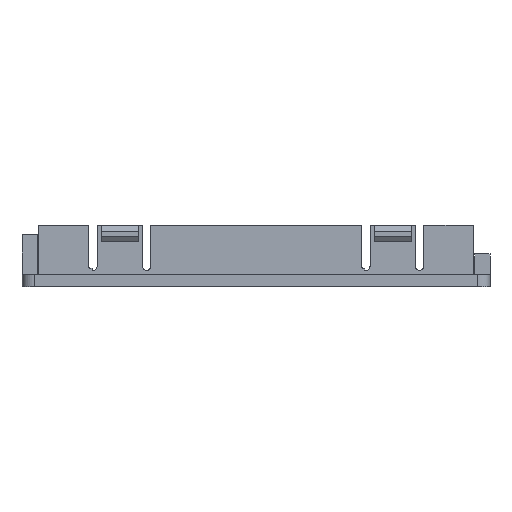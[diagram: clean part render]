
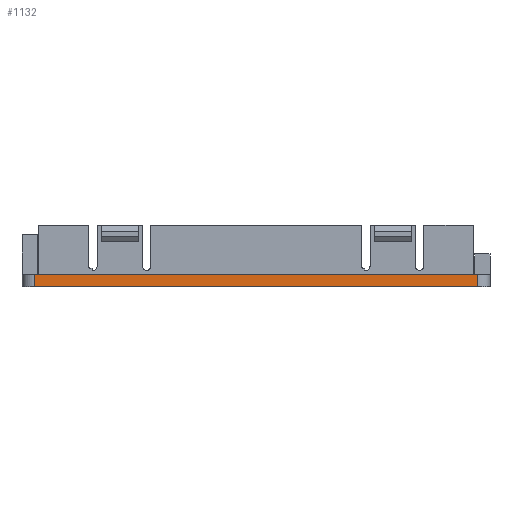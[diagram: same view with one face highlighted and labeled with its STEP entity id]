
A CAD part, front view. The second image highlights one B-rep face of the part: STEP entity #1132.
In plain terms, the highlighted planar face has unit normal (0, -1, 0).
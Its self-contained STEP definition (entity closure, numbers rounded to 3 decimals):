
#44 = PLANE('',#45);
#45 = AXIS2_PLACEMENT_3D('',#46,#47,#48);
#46 = CARTESIAN_POINT('',(0.,25.6,1.2));
#47 = DIRECTION('',(0.,0.,1.));
#48 = DIRECTION('',(-1.,-0.,0.));
#100 = PLANE('',#101);
#101 = AXIS2_PLACEMENT_3D('',#102,#103,#104);
#102 = CARTESIAN_POINT('',(0.,25.6,0.));
#103 = DIRECTION('',(0.,0.,1.));
#104 = DIRECTION('',(-1.,-0.,0.));
#128 = CYLINDRICAL_SURFACE('',#129,1.2);
#129 = AXIS2_PLACEMENT_3D('',#130,#131,#132);
#130 = CARTESIAN_POINT('',(1.2,1.2,0.));
#131 = DIRECTION('',(-0.,-0.,1.));
#132 = DIRECTION('',(-1.,-0.,0.));
#729 = CYLINDRICAL_SURFACE('',#730,1.2);
#730 = AXIS2_PLACEMENT_3D('',#731,#732,#733);
#731 = CARTESIAN_POINT('',(44.25,1.2,0.));
#732 = DIRECTION('',(-0.,-0.,1.));
#733 = DIRECTION('',(1.,-0.,-0.));
#1051 = VERTEX_POINT('',#1052);
#1052 = CARTESIAN_POINT('',(44.25,0.,0.));
#1078 = EDGE_CURVE('',#1051,#1079,#1081,.T.);
#1079 = VERTEX_POINT('',#1080);
#1080 = CARTESIAN_POINT('',(44.25,0.,1.2));
#1081 = SURFACE_CURVE('',#1082,(#1086,#1093),.PCURVE_S1.);
#1082 = LINE('',#1083,#1084);
#1083 = CARTESIAN_POINT('',(44.25,0.,0.));
#1084 = VECTOR('',#1085,1.);
#1085 = DIRECTION('',(-0.,-0.,1.));
#1086 = PCURVE('',#729,#1087);
#1087 = DEFINITIONAL_REPRESENTATION('',(#1088),#1092);
#1088 = LINE('',#1089,#1090);
#1089 = CARTESIAN_POINT('',(-1.571,0.));
#1090 = VECTOR('',#1091,1.);
#1091 = DIRECTION('',(-0.,1.));
#1092 = ( GEOMETRIC_REPRESENTATION_CONTEXT(2) 
PARAMETRIC_REPRESENTATION_CONTEXT() REPRESENTATION_CONTEXT('2D SPACE',''
  ) );
#1093 = PCURVE('',#1094,#1099);
#1094 = PLANE('',#1095);
#1095 = AXIS2_PLACEMENT_3D('',#1096,#1097,#1098);
#1096 = CARTESIAN_POINT('',(0.,0.,0.));
#1097 = DIRECTION('',(0.,-1.,0.));
#1098 = DIRECTION('',(0.,-0.,-1.));
#1099 = DEFINITIONAL_REPRESENTATION('',(#1100),#1104);
#1100 = LINE('',#1101,#1102);
#1101 = CARTESIAN_POINT('',(-0.,44.25));
#1102 = VECTOR('',#1103,1.);
#1103 = DIRECTION('',(-1.,0.));
#1104 = ( GEOMETRIC_REPRESENTATION_CONTEXT(2) 
PARAMETRIC_REPRESENTATION_CONTEXT() REPRESENTATION_CONTEXT('2D SPACE',''
  ) );
#1132 = ADVANCED_FACE('',(#1133),#1094,.T.);
#1133 = FACE_BOUND('',#1134,.F.);
#1134 = EDGE_LOOP('',(#1135,#1158,#1181,#1202));
#1135 = ORIENTED_EDGE('',*,*,#1136,.F.);
#1136 = EDGE_CURVE('',#1137,#1051,#1139,.T.);
#1137 = VERTEX_POINT('',#1138);
#1138 = CARTESIAN_POINT('',(1.2,0.,0.));
#1139 = SURFACE_CURVE('',#1140,(#1144,#1151),.PCURVE_S1.);
#1140 = LINE('',#1141,#1142);
#1141 = CARTESIAN_POINT('',(0.,0.,0.));
#1142 = VECTOR('',#1143,1.);
#1143 = DIRECTION('',(1.,0.,0.));
#1144 = PCURVE('',#1094,#1145);
#1145 = DEFINITIONAL_REPRESENTATION('',(#1146),#1150);
#1146 = LINE('',#1147,#1148);
#1147 = CARTESIAN_POINT('',(-0.,0.));
#1148 = VECTOR('',#1149,1.);
#1149 = DIRECTION('',(-0.,1.));
#1150 = ( GEOMETRIC_REPRESENTATION_CONTEXT(2) 
PARAMETRIC_REPRESENTATION_CONTEXT() REPRESENTATION_CONTEXT('2D SPACE',''
  ) );
#1151 = PCURVE('',#100,#1152);
#1152 = DEFINITIONAL_REPRESENTATION('',(#1153),#1157);
#1153 = LINE('',#1154,#1155);
#1154 = CARTESIAN_POINT('',(-0.,25.6));
#1155 = VECTOR('',#1156,1.);
#1156 = DIRECTION('',(-1.,-0.));
#1157 = ( GEOMETRIC_REPRESENTATION_CONTEXT(2) 
PARAMETRIC_REPRESENTATION_CONTEXT() REPRESENTATION_CONTEXT('2D SPACE',''
  ) );
#1158 = ORIENTED_EDGE('',*,*,#1159,.T.);
#1159 = EDGE_CURVE('',#1137,#1160,#1162,.T.);
#1160 = VERTEX_POINT('',#1161);
#1161 = CARTESIAN_POINT('',(1.2,0.,1.2));
#1162 = SURFACE_CURVE('',#1163,(#1167,#1174),.PCURVE_S1.);
#1163 = LINE('',#1164,#1165);
#1164 = CARTESIAN_POINT('',(1.2,0.,0.));
#1165 = VECTOR('',#1166,1.);
#1166 = DIRECTION('',(-0.,-0.,1.));
#1167 = PCURVE('',#1094,#1168);
#1168 = DEFINITIONAL_REPRESENTATION('',(#1169),#1173);
#1169 = LINE('',#1170,#1171);
#1170 = CARTESIAN_POINT('',(-0.,1.2));
#1171 = VECTOR('',#1172,1.);
#1172 = DIRECTION('',(-1.,0.));
#1173 = ( GEOMETRIC_REPRESENTATION_CONTEXT(2) 
PARAMETRIC_REPRESENTATION_CONTEXT() REPRESENTATION_CONTEXT('2D SPACE',''
  ) );
#1174 = PCURVE('',#128,#1175);
#1175 = DEFINITIONAL_REPRESENTATION('',(#1176),#1180);
#1176 = LINE('',#1177,#1178);
#1177 = CARTESIAN_POINT('',(1.571,0.));
#1178 = VECTOR('',#1179,1.);
#1179 = DIRECTION('',(0.,1.));
#1180 = ( GEOMETRIC_REPRESENTATION_CONTEXT(2) 
PARAMETRIC_REPRESENTATION_CONTEXT() REPRESENTATION_CONTEXT('2D SPACE',''
  ) );
#1181 = ORIENTED_EDGE('',*,*,#1182,.T.);
#1182 = EDGE_CURVE('',#1160,#1079,#1183,.T.);
#1183 = SURFACE_CURVE('',#1184,(#1188,#1195),.PCURVE_S1.);
#1184 = LINE('',#1185,#1186);
#1185 = CARTESIAN_POINT('',(0.,0.,1.2));
#1186 = VECTOR('',#1187,1.);
#1187 = DIRECTION('',(1.,0.,0.));
#1188 = PCURVE('',#1094,#1189);
#1189 = DEFINITIONAL_REPRESENTATION('',(#1190),#1194);
#1190 = LINE('',#1191,#1192);
#1191 = CARTESIAN_POINT('',(-1.2,0.));
#1192 = VECTOR('',#1193,1.);
#1193 = DIRECTION('',(-0.,1.));
#1194 = ( GEOMETRIC_REPRESENTATION_CONTEXT(2) 
PARAMETRIC_REPRESENTATION_CONTEXT() REPRESENTATION_CONTEXT('2D SPACE',''
  ) );
#1195 = PCURVE('',#44,#1196);
#1196 = DEFINITIONAL_REPRESENTATION('',(#1197),#1201);
#1197 = LINE('',#1198,#1199);
#1198 = CARTESIAN_POINT('',(-0.,25.6));
#1199 = VECTOR('',#1200,1.);
#1200 = DIRECTION('',(-1.,-0.));
#1201 = ( GEOMETRIC_REPRESENTATION_CONTEXT(2) 
PARAMETRIC_REPRESENTATION_CONTEXT() REPRESENTATION_CONTEXT('2D SPACE',''
  ) );
#1202 = ORIENTED_EDGE('',*,*,#1078,.F.);
